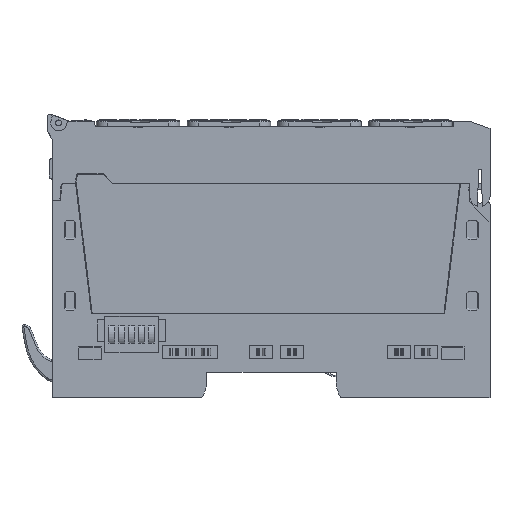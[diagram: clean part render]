
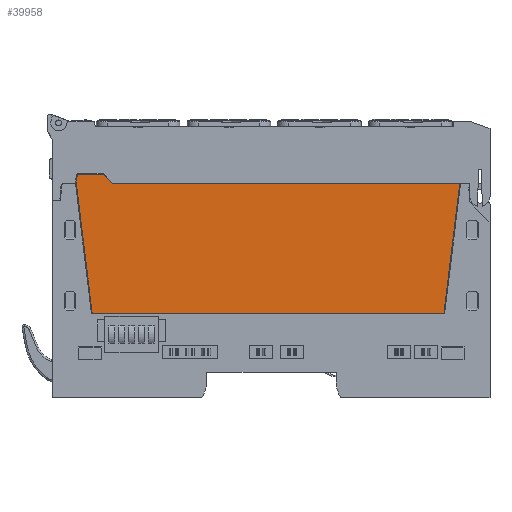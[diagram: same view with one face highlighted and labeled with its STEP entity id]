
A CAD part, top view. The second image highlights one B-rep face of the part: STEP entity #39958.
In plain terms, the highlighted planar face has unit normal (0, 0, 1).
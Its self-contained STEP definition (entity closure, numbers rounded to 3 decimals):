
#39898=AXIS2_PLACEMENT_3D('Plane Axis2P3D',#39895,#39896,#39897) ;
#39930=AXIS2_PLACEMENT_3D('Circle Axis2P3D',#39928,#39929,$) ;
#36596=CARTESIAN_POINT('Vertex',(47.15,16.1,11.5)) ;
#36599=CARTESIAN_POINT('Line Origine',(-0.9,16.1,11.5)) ;
#36603=CARTESIAN_POINT('Vertex',(-48.95,16.1,11.5)) ;
#39879=CARTESIAN_POINT('Vertex',(51.497,51.5,11.5)) ;
#39882=CARTESIAN_POINT('Line Origine',(49.323,33.8,11.5)) ;
#39895=CARTESIAN_POINT('Axis2P3D Location',(0.,0.,11.5)) ;
#39900=CARTESIAN_POINT('Line Origine',(-51.123,33.8,11.5)) ;
#39904=CARTESIAN_POINT('Vertex',(-53.297,51.5,11.5)) ;
#39907=CARTESIAN_POINT('Line Origine',(4.05,51.5,11.5)) ;
#39911=CARTESIAN_POINT('Vertex',(-43.396,51.5,11.5)) ;
#39914=CARTESIAN_POINT('Line Origine',(-44.684,52.8,11.5)) ;
#39918=CARTESIAN_POINT('Vertex',(-45.971,54.1,11.5)) ;
#39921=CARTESIAN_POINT('Line Origine',(-49.265,54.1,11.5)) ;
#39925=CARTESIAN_POINT('Vertex',(-52.558,54.1,11.5)) ;
#39928=CARTESIAN_POINT('Axis2P3D Location',(-52.558,53.6,11.5)) ;
#39932=CARTESIAN_POINT('Vertex',(-53.051,53.686,11.5)) ;
#39935=CARTESIAN_POINT('Line Origine',(-53.174,52.982,11.5)) ;
#39939=CARTESIAN_POINT('Vertex',(-53.297,52.277,11.5)) ;
#39942=CARTESIAN_POINT('Line Origine',(-53.297,51.889,11.5)) ;
#36600=DIRECTION('Vector Direction',(-1.,0.,0.)) ;
#39883=DIRECTION('Vector Direction',(0.122,0.993,0.)) ;
#39896=DIRECTION('Axis2P3D Direction',(0.,0.,1.)) ;
#39897=DIRECTION('Axis2P3D XDirection',(1.,0.,0.)) ;
#39901=DIRECTION('Vector Direction',(0.122,-0.993,0.)) ;
#39908=DIRECTION('Vector Direction',(1.,0.,0.)) ;
#39915=DIRECTION('Vector Direction',(-0.704,0.71,0.)) ;
#39922=DIRECTION('Vector Direction',(-1.,0.,0.)) ;
#39929=DIRECTION('Axis2P3D Direction',(0.,0.,1.)) ;
#39936=DIRECTION('Vector Direction',(-0.172,-0.985,0.)) ;
#39943=DIRECTION('Vector Direction',(0.,-1.,0.)) ;
#36601=VECTOR('Line Direction',#36600,1.) ;
#39884=VECTOR('Line Direction',#39883,1.) ;
#39902=VECTOR('Line Direction',#39901,1.) ;
#39909=VECTOR('Line Direction',#39908,1.) ;
#39916=VECTOR('Line Direction',#39915,1.) ;
#39923=VECTOR('Line Direction',#39922,1.) ;
#39937=VECTOR('Line Direction',#39936,1.) ;
#39944=VECTOR('Line Direction',#39943,1.) ;
#39948=ORIENTED_EDGE('',*,*,#39906,.T.) ;
#39949=ORIENTED_EDGE('',*,*,#36605,.T.) ;
#39950=ORIENTED_EDGE('',*,*,#39886,.T.) ;
#39951=ORIENTED_EDGE('',*,*,#39913,.T.) ;
#39952=ORIENTED_EDGE('',*,*,#39920,.T.) ;
#39953=ORIENTED_EDGE('',*,*,#39927,.T.) ;
#39954=ORIENTED_EDGE('',*,*,#39934,.T.) ;
#39955=ORIENTED_EDGE('',*,*,#39941,.T.) ;
#39956=ORIENTED_EDGE('',*,*,#39946,.T.) ;
#39958=ADVANCED_FACE('SP_UR20_EM.1\\SP_UR20_HO_EM.1\\ELGH_BASIC',(#39957),#39899,.T.) ;
#39931=CIRCLE('generated circle',#39930,0.5) ;
#36605=EDGE_CURVE('',#36604,#36597,#36602,.F.) ;
#39886=EDGE_CURVE('',#36597,#39880,#39885,.T.) ;
#39906=EDGE_CURVE('',#39905,#36604,#39903,.T.) ;
#39913=EDGE_CURVE('',#39880,#39912,#39910,.F.) ;
#39920=EDGE_CURVE('',#39912,#39919,#39917,.T.) ;
#39927=EDGE_CURVE('',#39919,#39926,#39924,.T.) ;
#39934=EDGE_CURVE('',#39926,#39933,#39931,.T.) ;
#39941=EDGE_CURVE('',#39933,#39940,#39938,.T.) ;
#39946=EDGE_CURVE('',#39940,#39905,#39945,.T.) ;
#39947=EDGE_LOOP('',(#39948,#39949,#39950,#39951,#39952,#39953,#39954,#39955,#39956)) ;
#39957=FACE_OUTER_BOUND('',#39947,.T.) ;
#36602=LINE('Line',#36599,#36601) ;
#39885=LINE('Line',#39882,#39884) ;
#39903=LINE('Line',#39900,#39902) ;
#39910=LINE('Line',#39907,#39909) ;
#39917=LINE('Line',#39914,#39916) ;
#39924=LINE('Line',#39921,#39923) ;
#39938=LINE('Line',#39935,#39937) ;
#39945=LINE('Line',#39942,#39944) ;
#39899=PLANE('',#39898) ;
#36597=VERTEX_POINT('',#36596) ;
#36604=VERTEX_POINT('',#36603) ;
#39880=VERTEX_POINT('',#39879) ;
#39905=VERTEX_POINT('',#39904) ;
#39912=VERTEX_POINT('',#39911) ;
#39919=VERTEX_POINT('',#39918) ;
#39926=VERTEX_POINT('',#39925) ;
#39933=VERTEX_POINT('',#39932) ;
#39940=VERTEX_POINT('',#39939) ;
